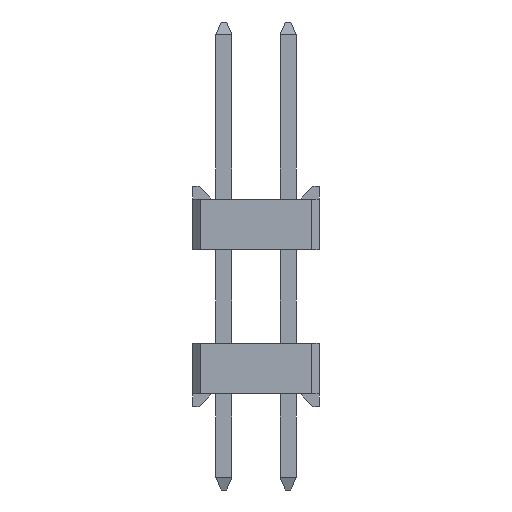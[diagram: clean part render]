
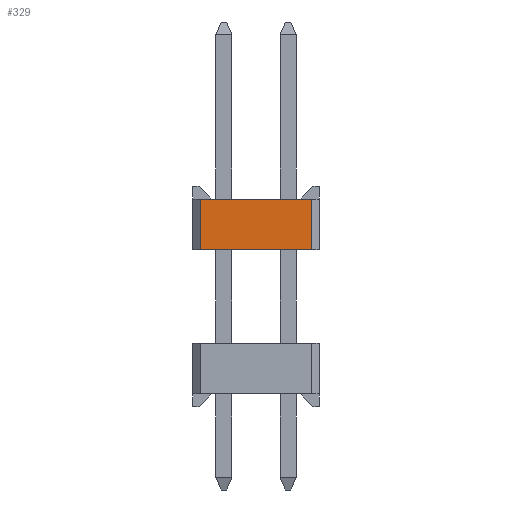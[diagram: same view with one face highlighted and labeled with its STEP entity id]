
A CAD part, left-side view. The second image highlights one B-rep face of the part: STEP entity #329.
In plain terms, the highlighted planar face has unit normal (-1, 0, 0).
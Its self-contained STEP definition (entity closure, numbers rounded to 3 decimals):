
#329=ADVANCED_FACE('',(#4153),#2241,.T.);
#2241=PLANE('',#36514);
#4153=FACE_OUTER_BOUND('',#6165,.T.);
#6165=EDGE_LOOP('',(#10034,#10035,#10036,#10037));
#10034=ORIENTED_EDGE('',*,*,#23112,.T.);
#10035=ORIENTED_EDGE('',*,*,#22883,.T.);
#10036=ORIENTED_EDGE('',*,*,#23113,.F.);
#10037=ORIENTED_EDGE('',*,*,#23114,.T.);
#19547=VERTEX_POINT('',#50229);
#19548=VERTEX_POINT('',#50231);
#19710=VERTEX_POINT('',#50624);
#19711=VERTEX_POINT('',#50626);
#22883=EDGE_CURVE('',#19548,#19547,#27907,.T.);
#23112=EDGE_CURVE('',#19710,#19548,#28136,.T.);
#23113=EDGE_CURVE('',#19711,#19547,#28137,.T.);
#23114=EDGE_CURVE('',#19711,#19710,#28138,.T.);
#27907=LINE('',#50230,#32931);
#28136=LINE('',#50623,#33160);
#28137=LINE('',#50625,#33161);
#28138=LINE('',#50627,#33162);
#32931=VECTOR('',#40056,1.);
#33160=VECTOR('',#40289,1.);
#33161=VECTOR('',#40290,1.);
#33162=VECTOR('',#40291,1.);
#36514=AXIS2_PLACEMENT_3D('',#50628,#40292,#40293);
#40056=DIRECTION('',(0.,1.,0.));
#40289=DIRECTION('',(0.,0.,1.));
#40290=DIRECTION('',(0.,0.,1.));
#40291=DIRECTION('',(0.,-1.,0.));
#40292=DIRECTION('',(-1.,0.,0.));
#40293=DIRECTION('',(0.,0.,1.));
#50229=CARTESIAN_POINT('',(0.,4.7,2.));
#50230=CARTESIAN_POINT('',(0.,2.5,2.));
#50231=CARTESIAN_POINT('',(0.,0.3,2.));
#50623=CARTESIAN_POINT('',(0.,0.3,-98.));
#50624=CARTESIAN_POINT('',(0.,0.3,0.));
#50625=CARTESIAN_POINT('',(0.,4.7,-98.));
#50626=CARTESIAN_POINT('',(0.,4.7,0.));
#50627=CARTESIAN_POINT('',(0.,2.5,0.));
#50628=CARTESIAN_POINT('',(0.,2.5,0.));
